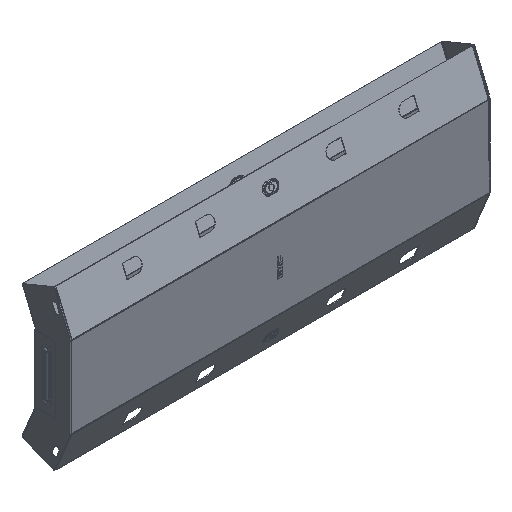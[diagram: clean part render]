
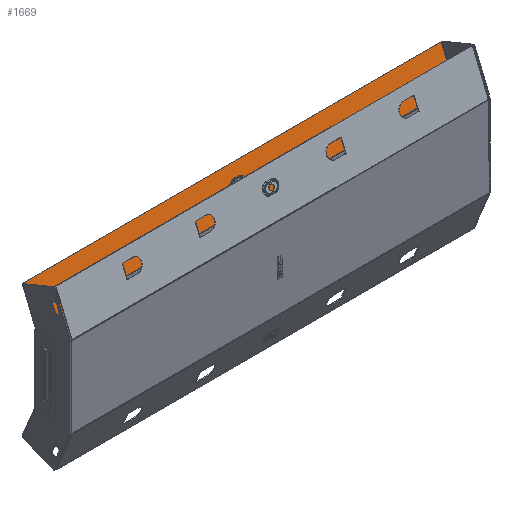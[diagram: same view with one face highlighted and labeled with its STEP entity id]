
A CAD part, isometric view. The second image highlights one B-rep face of the part: STEP entity #1669.
In plain terms, the highlighted planar face has unit normal (0, -0.924, 0.383).
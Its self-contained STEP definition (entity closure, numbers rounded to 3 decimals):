
#79 = AXIS2_PLACEMENT_3D ( 'NONE', #12883, #14025, #2681 ) ;
#316 = VERTEX_POINT ( 'NONE', #1800 ) ;
#850 = DIRECTION ( 'NONE',  ( 0., -0.383, -0.924 ) ) ;
#1083 = VECTOR ( 'NONE', #1590, 1000. ) ;
#1207 = LINE ( 'NONE', #12915, #14350 ) ;
#1258 = EDGE_CURVE ( 'NONE', #3673, #12066, #9664, .T. ) ;
#1262 = CARTESIAN_POINT ( 'NONE',  ( -3.5, 6.303, 65.307 ) ) ;
#1590 = DIRECTION ( 'NONE',  ( -1., 0., 0. ) ) ;
#1669 = ADVANCED_FACE ( 'NONE', ( #4635, #5862 ), #5005, .F. ) ;
#1729 = ORIENTED_EDGE ( 'NONE', *, *, #1947, .F. ) ;
#1800 = CARTESIAN_POINT ( 'NONE',  ( 299., -0.663, 48.49 ) ) ;
#1829 = ORIENTED_EDGE ( 'NONE', *, *, #1258, .F. ) ;
#1947 = EDGE_CURVE ( 'NONE', #316, #12703, #11764, .T. ) ;
#2519 = AXIS2_PLACEMENT_3D ( 'NONE', #5058, #10662, #8529 ) ;
#2534 = VECTOR ( 'NONE', #5124, 1000. ) ;
#2681 = DIRECTION ( 'NONE',  ( 0., -0.383, -0.924 ) ) ;
#2790 = DIRECTION ( 'NONE',  ( 0., -0.924, 0.383 ) ) ;
#2934 = CIRCLE ( 'NONE', #79, 7.598 ) ;
#3186 = VERTEX_POINT ( 'NONE', #5611 ) ;
#3473 = EDGE_CURVE ( 'NONE', #12066, #7787, #1207, .T. ) ;
#3673 = VERTEX_POINT ( 'NONE', #12267 ) ;
#3764 = LINE ( 'NONE', #13179, #12317 ) ;
#4127 = CARTESIAN_POINT ( 'NONE',  ( 299., 18.395, 94.5 ) ) ;
#4380 = ORIENTED_EDGE ( 'NONE', *, *, #7388, .F. ) ;
#4544 = EDGE_CURVE ( 'NONE', #7787, #3186, #2934, .T. ) ;
#4635 = FACE_BOUND ( 'NONE', #12457, .T. ) ;
#4677 = AXIS2_PLACEMENT_3D ( 'NONE', #5195, #2790, #9501 ) ;
#5005 = PLANE ( 'NONE',  #2519 ) ;
#5058 = CARTESIAN_POINT ( 'NONE',  ( 299., -0.739, 48.306 ) ) ;
#5124 = DIRECTION ( 'NONE',  ( 0., -0.383, -0.924 ) ) ;
#5195 = CARTESIAN_POINT ( 'NONE',  ( 3.5, 9.211, 72.327 ) ) ;
#5503 = VECTOR ( 'NONE', #5903, 1000. ) ;
#5611 = CARTESIAN_POINT ( 'NONE',  ( -3.5, 6.303, 65.307 ) ) ;
#5862 = FACE_OUTER_BOUND ( 'NONE', #8430, .T. ) ;
#5903 = DIRECTION ( 'NONE',  ( 1., 0., 0. ) ) ;
#6227 = DIRECTION ( 'NONE',  ( -1., 0., 0. ) ) ;
#6811 = CARTESIAN_POINT ( 'NONE',  ( 299., 18.395, 94.5 ) ) ;
#6914 = VERTEX_POINT ( 'NONE', #6811 ) ;
#6916 = LINE ( 'NONE', #4127, #1083 ) ;
#7144 = EDGE_CURVE ( 'NONE', #10613, #12703, #13365, .T. ) ;
#7229 = CARTESIAN_POINT ( 'NONE',  ( -299., -0.663, 48.49 ) ) ;
#7388 = EDGE_CURVE ( 'NONE', #3186, #3673, #13902, .T. ) ;
#7538 = ORIENTED_EDGE ( 'NONE', *, *, #7144, .T. ) ;
#7597 = EDGE_CURVE ( 'NONE', #6914, #316, #3764, .T. ) ;
#7787 = VERTEX_POINT ( 'NONE', #13367 ) ;
#8102 = ORIENTED_EDGE ( 'NONE', *, *, #7597, .F. ) ;
#8430 = EDGE_LOOP ( 'NONE', ( #7538, #1729, #8102, #11741 ) ) ;
#8509 = CARTESIAN_POINT ( 'NONE',  ( -299., -0.739, 48.306 ) ) ;
#8529 = DIRECTION ( 'NONE',  ( 0., 0.383, 0.924 ) ) ;
#8876 = ORIENTED_EDGE ( 'NONE', *, *, #4544, .F. ) ;
#9501 = DIRECTION ( 'NONE',  ( 0., -0.383, -0.924 ) ) ;
#9664 = CIRCLE ( 'NONE', #4677, 7.598 ) ;
#9898 = CARTESIAN_POINT ( 'NONE',  ( 3.5, 12.118, 79.347 ) ) ;
#10275 = ORIENTED_EDGE ( 'NONE', *, *, #3473, .F. ) ;
#10613 = VERTEX_POINT ( 'NONE', #14460 ) ;
#10662 = DIRECTION ( 'NONE',  ( 0., 0.924, -0.383 ) ) ;
#10868 = VECTOR ( 'NONE', #11260, 1000. ) ;
#11260 = DIRECTION ( 'NONE',  ( -1., 0., 0. ) ) ;
#11741 = ORIENTED_EDGE ( 'NONE', *, *, #13391, .T. ) ;
#11764 = LINE ( 'NONE', #12159, #10868 ) ;
#12066 = VERTEX_POINT ( 'NONE', #9898 ) ;
#12159 = CARTESIAN_POINT ( 'NONE',  ( 299., -0.663, 48.49 ) ) ;
#12267 = CARTESIAN_POINT ( 'NONE',  ( 3.5, 6.303, 65.307 ) ) ;
#12317 = VECTOR ( 'NONE', #850, 1000. ) ;
#12457 = EDGE_LOOP ( 'NONE', ( #1829, #4380, #8876, #10275 ) ) ;
#12703 = VERTEX_POINT ( 'NONE', #7229 ) ;
#12883 = CARTESIAN_POINT ( 'NONE',  ( -3.5, 9.211, 72.327 ) ) ;
#12915 = CARTESIAN_POINT ( 'NONE',  ( -3.5, 12.118, 79.347 ) ) ;
#13179 = CARTESIAN_POINT ( 'NONE',  ( 299., -0.739, 48.306 ) ) ;
#13365 = LINE ( 'NONE', #8509, #2534 ) ;
#13367 = CARTESIAN_POINT ( 'NONE',  ( -3.5, 12.118, 79.347 ) ) ;
#13391 = EDGE_CURVE ( 'NONE', #6914, #10613, #6916, .T. ) ;
#13902 = LINE ( 'NONE', #1262, #5503 ) ;
#14025 = DIRECTION ( 'NONE',  ( 0., -0.924, 0.383 ) ) ;
#14350 = VECTOR ( 'NONE', #6227, 1000. ) ;
#14460 = CARTESIAN_POINT ( 'NONE',  ( -299., 18.395, 94.5 ) ) ;
